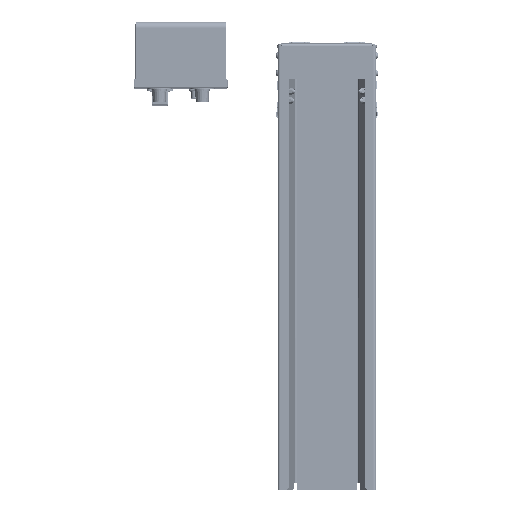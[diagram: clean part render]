
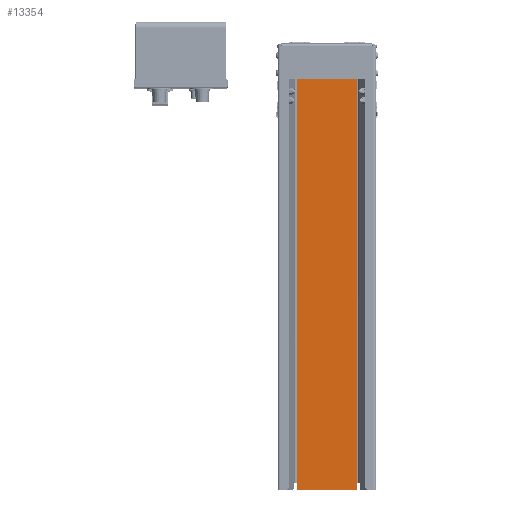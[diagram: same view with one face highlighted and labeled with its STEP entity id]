
A CAD part, top view. The second image highlights one B-rep face of the part: STEP entity #13354.
In plain terms, the highlighted planar face has unit normal (0, 0, 1).
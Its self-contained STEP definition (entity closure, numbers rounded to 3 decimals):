
#2328 = CARTESIAN_POINT ( 'NONE',  ( 43.145, 288.75, 0. ) ) ;
#3595 = VERTEX_POINT ( 'NONE', #79279 ) ;
#3869 = DIRECTION ( 'NONE',  ( 0., 1., 0. ) ) ;
#3949 = EDGE_CURVE ( 'NONE', #10410, #56578, #55674, .T. ) ;
#4708 = CARTESIAN_POINT ( 'NONE',  ( 40.145, 298.75, 0. ) ) ;
#7029 = DIRECTION ( 'NONE',  ( 0., 0., 1. ) ) ;
#7189 = CARTESIAN_POINT ( 'NONE',  ( -43.145, 288.75, 0. ) ) ;
#7493 = CARTESIAN_POINT ( 'NONE',  ( 43.145, 298.75, 0. ) ) ;
#7591 = CARTESIAN_POINT ( 'NONE',  ( 43.145, -298.75, 0. ) ) ;
#10410 = VERTEX_POINT ( 'NONE', #62440 ) ;
#10829 = EDGE_CURVE ( 'NONE', #129675, #52702, #39997, .T. ) ;
#13354 = ADVANCED_FACE ( 'NONE', ( #56867 ), #95592, .T. ) ;
#15905 = VERTEX_POINT ( 'NONE', #56823 ) ;
#19648 = VECTOR ( 'NONE', #3869, 1000. ) ;
#19780 = EDGE_CURVE ( 'NONE', #15905, #101395, #128155, .T. ) ;
#21387 = DIRECTION ( 'NONE',  ( -1., 0., 0. ) ) ;
#21490 = DIRECTION ( 'NONE',  ( 1., 0., 0. ) ) ;
#22806 = VECTOR ( 'NONE', #116457, 1000. ) ;
#26474 = CARTESIAN_POINT ( 'NONE',  ( -46.75, -298.75, 0. ) ) ;
#30293 = VECTOR ( 'NONE', #68141, 1000. ) ;
#31227 = LINE ( 'NONE', #111290, #77697 ) ;
#35546 = VECTOR ( 'NONE', #65163, 1000. ) ;
#38588 = ORIENTED_EDGE ( 'NONE', *, *, #105108, .T. ) ;
#39997 = CIRCLE ( 'NONE', #52516, 3. ) ;
#40507 = EDGE_CURVE ( 'NONE', #56578, #129675, #31227, .T. ) ;
#43458 = EDGE_CURVE ( 'NONE', #15905, #97611, #99747, .T. ) ;
#43645 = ORIENTED_EDGE ( 'NONE', *, *, #43458, .F. ) ;
#46379 = DIRECTION ( 'NONE',  ( 0., 0., 1. ) ) ;
#46543 = LINE ( 'NONE', #7189, #30293 ) ;
#52516 = AXIS2_PLACEMENT_3D ( 'NONE', #123220, #111399, #21490 ) ;
#52562 = ORIENTED_EDGE ( 'NONE', *, *, #124972, .F. ) ;
#52702 = VERTEX_POINT ( 'NONE', #101656 ) ;
#54364 = EDGE_CURVE ( 'NONE', #3595, #101395, #117092, .T. ) ;
#55674 = CIRCLE ( 'NONE', #91232, 3. ) ;
#56127 = EDGE_LOOP ( 'NONE', ( #69668, #115874, #52562, #43645, #129134, #112888, #38588, #82604 ) ) ;
#56578 = VERTEX_POINT ( 'NONE', #4708 ) ;
#56823 = CARTESIAN_POINT ( 'NONE',  ( -43.145, -298.75, 0. ) ) ;
#56867 = FACE_OUTER_BOUND ( 'NONE', #56127, .T. ) ;
#62440 = CARTESIAN_POINT ( 'NONE',  ( 43.145, 295.75, 0. ) ) ;
#63692 = AXIS2_PLACEMENT_3D ( 'NONE', #104822, #46379, #86385 ) ;
#65163 = DIRECTION ( 'NONE',  ( 1., 0., 0. ) ) ;
#68141 = DIRECTION ( 'NONE',  ( 0., 1., 0. ) ) ;
#68593 = CARTESIAN_POINT ( 'NONE',  ( -40.145, 298.75, 0. ) ) ;
#69668 = ORIENTED_EDGE ( 'NONE', *, *, #40507, .T. ) ;
#72102 = CARTESIAN_POINT ( 'NONE',  ( -43.145, -299.304, 0. ) ) ;
#73796 = LINE ( 'NONE', #2328, #103380 ) ;
#77697 = VECTOR ( 'NONE', #21387, 1000. ) ;
#79279 = CARTESIAN_POINT ( 'NONE',  ( 43.145, 288.75, 0. ) ) ;
#82604 = ORIENTED_EDGE ( 'NONE', *, *, #3949, .T. ) ;
#86385 = DIRECTION ( 'NONE',  ( 1., 0., 0. ) ) ;
#87036 = CARTESIAN_POINT ( 'NONE',  ( 40.145, 295.75, 0. ) ) ;
#89625 = DIRECTION ( 'NONE',  ( 1., 0., 0. ) ) ;
#91232 = AXIS2_PLACEMENT_3D ( 'NONE', #87036, #7029, #89625 ) ;
#94112 = DIRECTION ( 'NONE',  ( 0., 1., 0. ) ) ;
#95592 = PLANE ( 'NONE',  #63692 ) ;
#97611 = VERTEX_POINT ( 'NONE', #118259 ) ;
#99747 = LINE ( 'NONE', #72102, #19648 ) ;
#101395 = VERTEX_POINT ( 'NONE', #7591 ) ;
#101656 = CARTESIAN_POINT ( 'NONE',  ( -43.145, 295.75, 0. ) ) ;
#103380 = VECTOR ( 'NONE', #94112, 1000. ) ;
#104822 = CARTESIAN_POINT ( 'NONE',  ( 0., 0., 0. ) ) ;
#105108 = EDGE_CURVE ( 'NONE', #3595, #10410, #73796, .T. ) ;
#111290 = CARTESIAN_POINT ( 'NONE',  ( -46.75, 298.75, 0. ) ) ;
#111399 = DIRECTION ( 'NONE',  ( 0., 0., 1. ) ) ;
#112888 = ORIENTED_EDGE ( 'NONE', *, *, #54364, .F. ) ;
#115874 = ORIENTED_EDGE ( 'NONE', *, *, #10829, .T. ) ;
#116457 = DIRECTION ( 'NONE',  ( 0., -1., 0. ) ) ;
#117092 = LINE ( 'NONE', #7493, #22806 ) ;
#118259 = CARTESIAN_POINT ( 'NONE',  ( -43.145, 288.75, 0. ) ) ;
#123220 = CARTESIAN_POINT ( 'NONE',  ( -40.145, 295.75, 0. ) ) ;
#124972 = EDGE_CURVE ( 'NONE', #97611, #52702, #46543, .T. ) ;
#128155 = LINE ( 'NONE', #26474, #35546 ) ;
#129134 = ORIENTED_EDGE ( 'NONE', *, *, #19780, .T. ) ;
#129675 = VERTEX_POINT ( 'NONE', #68593 ) ;
